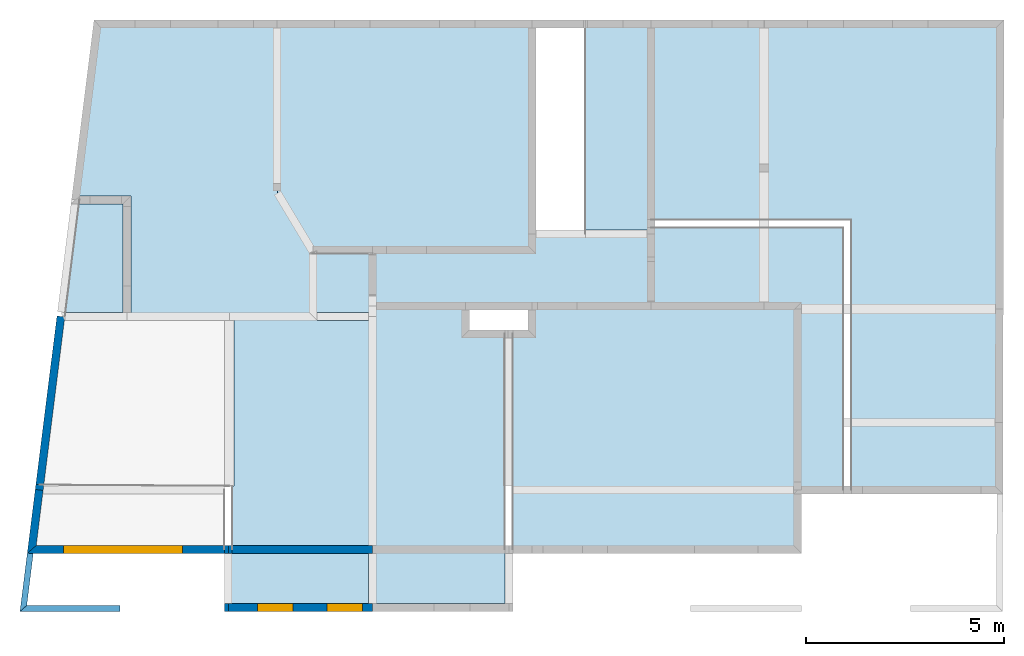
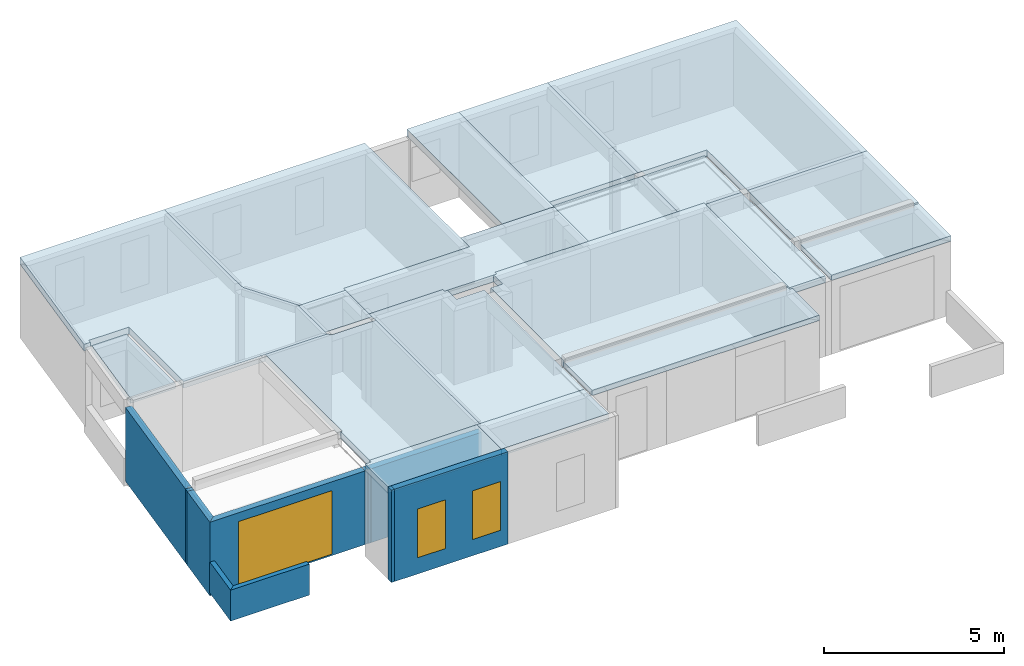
# One storey, part 4 of 8: 19 slabs, 11 walls, 3 windows, 3 openings.
"""IFC2X3 building model written with IfcOpenShell, lengths in metres."""

import ifcopenshell
import ifcopenshell.guid

model = None  # the IFC model being written
_history = None  # IfcOwnerHistory: only IFC2X3 demands one
_inside = {}  # id of a spatial element -> (the spatial element, [elements in it])
_under = {}  # id of a project, library or spatial element -> (it, [spatial elements below it])
_declared = {}  # id of a project -> (the project, [libraries it declares])
_typed = {}  # id of a type object -> (the type object, [elements of that type])
_made_of = {}  # id of a material, layer set ... -> (it, [elements and type objects made of it])


def new_model(schema):
    """Start an empty IFC model of exactly this schema.

    Asked for "IFC4X3", IfcOpenShell would pick the latest addendum, in which some entities
    have other attributes; the version numbers below select the first issue.
    IFC2X3 requires an IfcOwnerHistory on every rooted entity: one is made here for all.
    """
    global model, _history
    if schema == "IFC4X3":
        model = ifcopenshell.file(schema_version=(4, 3, 0, 0))
    else:
        model = ifcopenshell.file(schema=schema)
    _inside.clear()
    _under.clear()
    _declared.clear()
    _typed.clear()
    _made_of.clear()
    _history = None
    if model.schema == "IFC2X3":
        org = make("IfcOrganization", Name="unknown")
        user = make(
            "IfcPersonAndOrganization",
            ThePerson=make("IfcPerson", FamilyName="unknown"),
            TheOrganization=org,
        )
        app = make(
            "IfcApplication",
            ApplicationDeveloper=org,
            Version="unknown",
            ApplicationFullName="unknown",
            ApplicationIdentifier="unknown",
        )
        _history = make(
            "IfcOwnerHistory",
            OwningUser=user,
            OwningApplication=app,
            ChangeAction="ADDED",
            CreationDate=0,
        )
    return model


def make(cls, **values):
    """One entity of the class cls with the attributes given. An attribute that is None is left unset."""
    return model.create_entity(
        cls, **{name: value for name, value in values.items() if value is not None}
    )


def rooted(cls, **values):
    """An entity with a GlobalId (a new one), such as an element, a storey or a relation."""
    return make(cls, GlobalId=ifcopenshell.guid.new(), OwnerHistory=_history, **values)


def si_unit(unit_type, name, prefix=None):
    """IfcSIUnit, for example si_unit("LENGTHUNIT", "METRE", prefix="MILLI")."""
    return make("IfcSIUnit", UnitType=unit_type, Prefix=prefix, Name=name)


def assignment(units):
    """IfcUnitAssignment: the units of a project."""
    return None if units is None else make("IfcUnitAssignment", Units=units)


def point(xyz):
    """IfcCartesianPoint."""
    return None if xyz is None else make("IfcCartesianPoint", Coordinates=xyz)


def direction(xyz):
    """IfcDirection."""
    return None if xyz is None else make("IfcDirection", DirectionRatios=xyz)


def frame(location, z_axis=None, x_axis=None):
    """IfcAxis2Placement3D, a coordinate frame: its origin and axes. An axis left out is left unset."""
    return make(
        "IfcAxis2Placement3D",
        Location=point(location),
        Axis=direction(z_axis),
        RefDirection=direction(x_axis),
    )


def frame_2d(location, x_axis=None):
    """IfcAxis2Placement2D, a coordinate frame in the plane: its origin and x axis."""
    return make(
        "IfcAxis2Placement2D", Location=point(location), RefDirection=direction(x_axis)
    )


def origin_with_axes():
    """The frame at (0, 0, 0) with the z axis (0, 0, 1) and the x axis (1, 0, 0) written out."""
    return frame((0.0, 0.0, 0.0), z_axis=(0.0, 0.0, 1.0), x_axis=(1.0, 0.0, 0.0))


def origin_2d():
    """The frame at (0, 0) in the plane with its x axis left unset."""
    return frame_2d((0.0, 0.0))


def place(relative_to, where):
    """IfcLocalPlacement: puts the frame where relative to a parent placement (None: the world)."""
    return make(
        "IfcLocalPlacement", PlacementRelTo=relative_to, RelativePlacement=where
    )


def context(
    kind, dimensions, precision=None, world=None, true_north=None, identifier=None
):
    """IfcGeometricRepresentationContext, for example the 3D "Model" context."""
    return make(
        "IfcGeometricRepresentationContext",
        ContextIdentifier=identifier,
        ContextType=kind,
        CoordinateSpaceDimension=dimensions,
        Precision=precision,
        WorldCoordinateSystem=world,
        TrueNorth=true_north,
    )


def subcontext(parent, identifier, kind, view, scale=None):
    """IfcGeometricRepresentationSubContext, for example "Body" below "Model"."""
    return make(
        "IfcGeometricRepresentationSubContext",
        ContextIdentifier=identifier,
        ContextType=kind,
        ParentContext=parent,
        TargetScale=scale,
        TargetView=view,
    )


def project(units=None, contexts=None):
    """IfcProject with its units and contexts."""
    return rooted(
        "IfcProject",
        Name="project",
        RepresentationContexts=contexts,
        UnitsInContext=assignment(units),
    )


def spatial(cls, under=None, at=None, **own):
    """A site, building, storey or space (cls), placed at a placement, below another one or the project."""
    s = rooted(cls, ObjectPlacement=at, **own)
    if under is not None:
        _under.setdefault(under.id(), (under, []))[1].append(s)
    return s


def polyline(points):
    """IfcPolyline through the points."""
    return make("IfcPolyline", Points=[point(p) for p in points])


def profile(cls, at=None, kind="AREA", **sizes):
    """A parametric profile (cls). Its sizes go by their IFC names, for example OverallWidth=200.0."""
    return make(cls, ProfileType=kind, Position=at, **sizes)


def rectangle(**sizes):
    """IfcRectangleProfileDef."""
    return profile("IfcRectangleProfileDef", **sizes)


def outline(outer, holes=None, kind="AREA"):
    """IfcArbitraryClosedProfileDef: a profile drawn as a closed curve; with holes, ...WithVoids."""
    if holes is None:
        return make("IfcArbitraryClosedProfileDef", ProfileType=kind, OuterCurve=outer)
    return make(
        "IfcArbitraryProfileDefWithVoids",
        ProfileType=kind,
        OuterCurve=outer,
        InnerCurves=holes,
    )


def extrude(swept, where, along, depth):
    """IfcExtrudedAreaSolid: the profile swept, set in the frame where, extruded along a direction by depth."""
    return make(
        "IfcExtrudedAreaSolid",
        SweptArea=swept,
        Position=where,
        ExtrudedDirection=direction(along),
        Depth=depth,
    )


def shape(context_of_items, identifier, shape_type, items):
    """IfcShapeRepresentation: the items that make up one representation, for example the "Body"."""
    return make(
        "IfcShapeRepresentation",
        ContextOfItems=context_of_items,
        RepresentationIdentifier=identifier,
        RepresentationType=shape_type,
        Items=items,
    )


def material(Name=None, Category=None):
    """IfcMaterial."""
    return make("IfcMaterial", Name=Name, Category=Category)


def layer(
    of_material, thickness, ventilated=None, Name=None, Category=None, Priority=None
):
    """IfcMaterialLayer: one layer of a wall or slab, of a material (None: an air gap)."""
    return make(
        "IfcMaterialLayer",
        Material=of_material,
        LayerThickness=thickness,
        IsVentilated=ventilated,
        Name=Name,
        Category=Category,
        Priority=Priority,
    )


def layer_set(layers, Name=None):
    """IfcMaterialLayerSet."""
    return make("IfcMaterialLayerSet", MaterialLayers=layers, LayerSetName=Name)


def layer_usage(for_layer_set, set_direction, sense, offset, extent=None):
    """IfcMaterialLayerSetUsage: how a layer set lies in its element."""
    return make(
        "IfcMaterialLayerSetUsage",
        ForLayerSet=for_layer_set,
        LayerSetDirection=set_direction,
        DirectionSense=sense,
        OffsetFromReferenceLine=offset,
        ReferenceExtent=extent,
    )


def made_of(thing, what):
    """Note that an element or type object is made of a material, layer set ...; save() writes the relation."""
    if what is not None:
        _made_of.setdefault(what.id(), (what, []))[1].append(thing)
    return thing


def type_object(cls, material=None, **own):
    """A type object (cls), such as IfcWallType, which elements share."""
    return made_of(rooted(cls, **own), material)


def element(
    cls,
    number,
    at=None,
    inside=None,
    cuts=None,
    type_object=None,
    material=None,
    context=None,
    identifier="Body",
    shape_type=None,
    held_by="IfcProductDefinitionShape",
    body=None,
    shapes=None,
    **own,
):
    """One element of the class cls, such as IfcWall. Its Tag is "e" and its number.

    at: its placement. inside: the storey or other place that contains it. cuts: it is an
    opening in that element (IfcRelVoidsElement). A single representation is given by context,
    identifier, shape_type and body (its items); several are given by shapes. held_by: the class
    of the entity that holds the representations. save() writes the other relations.
    """
    e = rooted(cls, Tag="e%d" % number, ObjectPlacement=at, **own)
    if body is not None:
        shapes = [shape(context, identifier, shape_type, body)]
    if shapes is not None:
        e.Representation = make(held_by, Representations=shapes)
    if inside is not None:
        _inside.setdefault(inside.id(), (inside, []))[1].append(e)
    if cuts is not None:
        rooted(
            "IfcRelVoidsElement", RelatingBuildingElement=cuts, RelatedOpeningElement=e
        )
    if type_object is not None:
        _typed.setdefault(type_object.id(), (type_object, []))[1].append(e)
    return made_of(e, material)


def fill(opening, filler):
    """IfcRelFillsElement: the door or window that sits in an opening."""
    return rooted(
        "IfcRelFillsElement",
        RelatingOpeningElement=opening,
        RelatedBuildingElement=filler,
    )


def aggregate(whole, parts):
    """IfcRelAggregates: a whole, such as a stair, and the parts it consists of."""
    return rooted("IfcRelAggregates", RelatingObject=whole, RelatedObjects=parts)


def save(model, path):
    """Write the relations noted so far, then the file.

    IfcRelAggregates (storeys below a building ...), IfcRelContainedInSpatialStructure (elements
    in a storey), IfcRelDefinesByType, IfcRelAssociatesMaterial and IfcRelDeclares: one each for
    every whole, place, type object, material and project.
    """
    for whole, parts in _under.values():
        aggregate(whole, parts)
    for where, things in _inside.values():
        rooted(
            "IfcRelContainedInSpatialStructure",
            RelatedElements=things,
            RelatingStructure=where,
        )
    for kind, things in _typed.values():
        rooted("IfcRelDefinesByType", RelatedObjects=things, RelatingType=kind)
    for what, things in _made_of.values():
        rooted("IfcRelAssociatesMaterial", RelatedObjects=things, RelatingMaterial=what)
    for by, libraries in _declared.values():
        rooted("IfcRelDeclares", RelatingContext=by, RelatedDefinitions=libraries)
    model.write(path)


model = new_model("IFC2X3")

# Units and contexts
model_context = context("Model", 3, precision=0.0001, world=origin_with_axes(), true_north=direction((0.0, 1.0)))
plan_context = context("Plan", 2, precision=0.0001, world=origin_with_axes(), true_north=direction((0.0, 1.0)))
body_context = subcontext(model_context, "Body", "Model", "MODEL_VIEW")
ifc_project = project(units=[si_unit("MASSUNIT", "GRAM", prefix="KILO"), si_unit("AREAUNIT", "SQUARE_METRE"), si_unit("LENGTHUNIT", "METRE"), si_unit("VOLUMEUNIT", "CUBIC_METRE")], contexts=[plan_context, model_context])

# Site, building, storey
site_placement = place(None, origin_with_axes())
site = spatial("IfcSite", under=ifc_project, at=site_placement, Name="$", CompositionType="ELEMENT")
building_placement = place(site_placement, origin_with_axes())
building = spatial("IfcBuilding", under=site, at=building_placement, Name="Classeur ENS Ensemble", CompositionType="ELEMENT")
storey_placement = place(building_placement, frame((-20.30778888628, -1.812671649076, 3.3), z_axis=(0.0, 0.0, 1.0), x_axis=(1.0, 0.0, 0.0)))
storey = spatial("IfcBuildingStorey", under=building, at=storey_placement, Name="002 R+1", CompositionType="ELEMENT", Elevation=3.3)

# Slabs
ifc_material_1 = material(Name="Default material")
slab_1_placement = place(storey_placement, frame((19.60344547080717, -5.5873253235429, 2.5), z_axis=(0.0, 0.0, 1.0), x_axis=(1.0, 0.0, 0.0)))
element("IfcSlab", 1, at=slab_1_placement, inside=storey, material=ifc_material_1, Name="Dalle BA 18 cm", PredefinedType="FLOOR", context=body_context, shape_type="SweptSolid", held_by="IfcProductRepresentation", body=[
    extrude(outline(polyline([(0.6785603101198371, 1.28228893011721), (0.0, 0.0), (2.58220943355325, -0.9784657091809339), (3.099992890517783, 0.0), (3.099992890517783, 0.0), (0.6785603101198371, 1.28228893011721)])), frame((0.0, 0.0, 0.0), z_axis=(0.0, 0.0, -1.0), x_axis=(0.4677269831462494, 0.8838729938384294, 0.0)), (0.0, 0.0, -1.0), 0.1800000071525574),
])
slab_2_placement = place(storey_placement, frame((23.6133957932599, -12.9323253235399, 2.5), z_axis=(0.0, 0.0, 1.0), x_axis=(1.0, 0.0, 0.0)))
element("IfcSlab", 2, at=slab_2_placement, inside=storey, material=ifc_material_1, Name="Dalle BA 23 cm", PredefinedType="FLOOR", context=body_context, shape_type="SweptSolid", held_by="IfcProductRepresentation", body=[
    extrude(outline(polyline([(3.408238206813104, 1.278089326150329), (0.0, 0.0), (0.4441711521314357, -1.184456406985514), (0.6314369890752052, -1.114231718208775), (0.6665493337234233, -1.20786463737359), (3.887521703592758, 0.0), (3.887521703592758, 0.0), (3.408238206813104, 1.278089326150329)])), frame((0.0, 0.0, 0.0), z_axis=(0.0, 0.0, -1.0), x_axis=(0.9363291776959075, 0.3511234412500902, 0.0)), (0.0, 0.0, -1.0), 0.2300000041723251),
])
slab_3_placement = place(storey_placement, frame((27.2533957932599, -11.56732532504, 2.5), z_axis=(0.0, 0.0, 1.0), x_axis=(1.0, 0.0, 0.0)))
element("IfcSlab", 3, at=slab_3_placement, inside=storey, material=ifc_material_1, Name="Dalle BA 23 cm", PredefinedType="FLOOR", context=body_context, shape_type="SweptSolid", held_by="IfcProductRepresentation", body=[
    extrude(outline(polyline([(0.0, 0.0), (0.0, -3.440000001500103), (0.0, -3.440000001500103), (0.0, -3.440000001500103), (1.364999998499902, -3.439999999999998), (1.364999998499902, 0.0), (1.364999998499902, 0.0), (0.0, 0.0)])), frame((0.0, 0.0, 0.0), z_axis=(0.0, 0.0, -1.0), x_axis=(0.0, -1.0, 0.0)), (0.0, 0.0, -1.0), 0.2300000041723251),
])
slab_4_placement = place(storey_placement, frame((30.89339579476, -11.6673253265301, 2.5), z_axis=(0.0, 0.0, 1.0), x_axis=(1.0, 0.0, 0.0)))
element("IfcSlab", 4, at=slab_4_placement, inside=storey, material=ifc_material_1, Name="Dalle BA 18 cm", PredefinedType="FLOOR", context=body_context, shape_type="SweptSolid", held_by="IfcProductRepresentation", body=[
    extrude(outline(polyline([(7.120516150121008, 1.562801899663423), (7.120516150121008, 1.562801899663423), (7.120516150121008, 1.562801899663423), (7.120516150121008, 1.562801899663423), (0.0, 0.0), (0.3430017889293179, -1.562801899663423), (7.463517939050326, 0.0), (7.463517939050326, 0.0), (7.120516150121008, 1.562801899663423)])), frame((0.0, 0.0, 0.0), z_axis=(0.0, 0.0, -1.0), x_axis=(0.9767511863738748, 0.2143761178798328, 0.0)), (0.0, 0.0, -1.0), 0.1800000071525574),
])
slab_5_placement = place(storey_placement, frame((39.43648670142, -10.1673253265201, 2.5), z_axis=(0.0, 0.0, 1.0), x_axis=(1.0, 0.0, 0.0)))
element("IfcSlab", 5, at=slab_5_placement, inside=storey, material=ifc_material_1, Name="Dalle BA 18 cm", PredefinedType="FLOOR", context=body_context, shape_type="SweptSolid", held_by="IfcProductRepresentation", body=[
    extrude(outline(polyline([(3.458679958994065, 1.626893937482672), (0.0, 0.0), (0.7661754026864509, -1.628843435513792), (4.228999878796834, 2.220446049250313e-16), (4.228999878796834, 2.220446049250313e-16), (3.458679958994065, 1.626893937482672)])), frame((0.0, 0.0, 0.0), z_axis=(0.0, 0.0, -1.0), x_axis=(0.9048912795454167, 0.425642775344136, 0.0)), (0.0, 0.0, -1.0), 0.1800000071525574),
])
slab_6_placement = place(storey_placement, frame((38.08339579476, -5.502325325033, 2.5), z_axis=(0.0, 0.0, 1.0), x_axis=(1.0, 0.0, 0.0)))
element("IfcSlab", 6, at=slab_6_placement, inside=storey, material=ifc_material_1, Name="Dalle BA 23 cm", PredefinedType="FLOOR", context=body_context, shape_type="SweptSolid", held_by="IfcProductRepresentation", body=[
    extrude(outline(polyline([(0.0, 0.0), (0.0, -1.153090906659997), (0.0, -1.153090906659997), (4.6650000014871, -1.153090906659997), (4.6650000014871, 0.0), (4.6650000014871, 0.0), (4.6650000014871, 0.0), (0.0, 0.0)])), frame((0.0, 0.0, 0.0), z_axis=(0.0, 0.0, -1.0), x_axis=(0.0, -1.0, 0.0)), (0.0, 0.0, -1.0), 0.2300000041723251),
])
slab_7_placement = place(storey_placement, frame((39.43646325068, -5.502325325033, 2.5), z_axis=(0.0, 0.0, 1.0), x_axis=(1.0, 0.0, 0.0)))
element("IfcSlab", 7, at=slab_7_placement, inside=storey, material=ifc_material_1, Name="Dalle BA 23 cm", PredefinedType="FLOOR", context=body_context, shape_type="SweptSolid", held_by="IfcProductRepresentation", body=[
    extrude(outline(polyline([(3.826808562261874, -2.864956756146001), (2.345074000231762e-05, -2.864956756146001), (2.345074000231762e-05, -2.864956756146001), (2.345074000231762e-05, -2.864956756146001), (2.345074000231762e-05, -0.3245520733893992), (0.0, 0.0), (3.834098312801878, 0.0), (3.834098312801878, 0.0), (3.826808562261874, -2.864956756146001)])), origin_with_axes(), (0.0, 0.0, 1.0), 0.2300000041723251),
])
slab_8_placement = place(storey_placement, frame((37.23321886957, -3.44736866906, 2.5), z_axis=(0.0, 0.0, 1.0), x_axis=(1.0, 0.0, 0.0)))
element("IfcSlab", 8, at=slab_8_placement, inside=storey, material=ifc_material_1, Name="Dalle BA 23 cm", PredefinedType="FLOOR", context=body_context, shape_type="SweptSolid", held_by="IfcProductRepresentation", body=[
    extrude(outline(polyline([(0.0, 0.0), (0.0, -2.003267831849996), (2.054956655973, -2.003267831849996), (2.054956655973, -0.8501769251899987), (1.979956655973, -0.8501769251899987), (1.979956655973, 0.0), (1.979956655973, 0.0), (0.0, 0.0)])), frame((0.0, 0.0, 0.0), z_axis=(0.0, 0.0, -1.0), x_axis=(0.0, -1.0, 0.0)), (0.0, 0.0, -1.0), 0.2300000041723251),
])
slab_9_placement = place(storey_placement, frame((34.38339579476, -3.24736866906, 2.5), z_axis=(0.0, 0.0, 1.0), x_axis=(1.0, 0.0, 0.0)))
element("IfcSlab", 9, at=slab_9_placement, inside=storey, material=ifc_material_1, Name="Dalle BA 23 cm", PredefinedType="FLOOR", context=body_context, shape_type="SweptSolid", held_by="IfcProductRepresentation", body=[
    extrude(outline(polyline([(5.040043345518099, -2.849804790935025), (1.41005005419, -2.849999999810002), (1.210043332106, -2.849823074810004), (0.0, -2.849823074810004), (0.0, -2.849823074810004), (0.0, 0.0), (5.0400433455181, 0.0), (5.0400433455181, 0.0), (5.040043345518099, -2.849804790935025)])), frame((0.0, 0.0, 0.0), z_axis=(0.0, 0.0, 1.0), x_axis=(0.0, 1.0, 0.0)), (0.0, 0.0, 1.0), 0.2300000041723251),
])
slab_10_placement = place(storey_placement, frame((34.38339579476, -4.191137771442, 2.5), z_axis=(0.0, 0.0, 1.0), x_axis=(1.0, 0.0, 0.0)))
element("IfcSlab", 10, at=slab_10_placement, inside=storey, material=ifc_material_1, Name="Dalle BA 23 cm", PredefinedType="FLOOR", context=body_context, shape_type="SweptSolid", held_by="IfcProductRepresentation", body=[
    extrude(outline(polyline([(0.0, 0.0), (0.0, 0.0), (-0.7437691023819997, 0.0), (-0.7437691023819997, -2.849823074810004), (1.236187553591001, -2.849823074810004), (1.236187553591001, 0.0), (1.236187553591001, 0.0), (0.0, 0.0)])), frame((0.0, 0.0, 0.0), z_axis=(0.0, 0.0, -1.0), x_axis=(0.0, -1.0, 0.0)), (0.0, 0.0, -1.0), 0.2300000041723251),
])
slab_11_placement = place(storey_placement, frame((30.89339579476, -10.06732532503, 2.5), z_axis=(0.0, 0.0, 1.0), x_axis=(1.0, 0.0, 0.0)))
element("IfcSlab", 11, at=slab_11_placement, inside=storey, material=ifc_material_1, Name="Dalle BA 23 cm", PredefinedType="FLOOR", context=body_context, shape_type="SweptSolid", held_by="IfcProductRepresentation", body=[
    extrude(outline(polyline([(6.149685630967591, 3.730612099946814), (6.041238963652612, 3.898657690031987), (0.0, 0.0), (2.190622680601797, -3.394520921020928), (2.518311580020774, -3.18304992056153), (2.84365158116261, -3.687186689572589), (2.84365158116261, -3.687186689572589), (2.84365158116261, -3.687186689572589), (8.557201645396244, 4.440892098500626e-16), (8.557201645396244, 4.440892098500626e-16), (8.557201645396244, 4.440892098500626e-16), (6.149685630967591, 3.730612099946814)])), frame((0.0, 0.0, 0.0), z_axis=(0.0, 0.0, -1.0), x_axis=(0.8402279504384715, 0.5422333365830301, 0.0)), (0.0, 0.0, -1.0), 0.2300000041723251),
])
slab_12_placement = place(storey_placement, frame((37.23320058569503, 1.7926746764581, 2.5), z_axis=(0.0, 0.0, 1.0), x_axis=(1.0, 0.0, 0.0)))
element("IfcSlab", 12, at=slab_12_placement, inside=storey, material=ifc_material_1, Name="Dalle BA 23 cm", PredefinedType="FLOOR", context=body_context, shape_type="SweptSolid", held_by="IfcProductRepresentation", body=[
    extrude(outline(polyline([(0.0003256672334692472, -6.055922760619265), (7.295324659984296, -6.036968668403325), (7.295118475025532, -2.202870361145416), (5.040161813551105, -2.202828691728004), (5.040043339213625, 0.0002527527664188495), (3.830000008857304, 0.0001876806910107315), (3.62999329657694, 0.0), (0.0, 0.0), (0.0, 0.0), (0.0, 0.0), (0.0003256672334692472, -6.055922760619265)])), frame((0.0, 0.0, 0.0), z_axis=(0.0, 0.0, -1.0), x_axis=(5.37766488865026e-05, -0.999999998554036, 0.0)), (0.0, 0.0, -1.0), 0.2300000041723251),
])
slab_13_placement = place(storey_placement, frame((27.35339579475, -5.427325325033, 2.5), z_axis=(0.0, 0.0, 1.0), x_axis=(1.0, 0.0, 0.0)))
element("IfcSlab", 13, at=slab_13_placement, inside=storey, material=ifc_material_1, Name="Dalle BA 23 cm", PredefinedType="FLOOR", context=body_context, shape_type="SweptSolid", held_by="IfcProductRepresentation", body=[
    extrude(outline(polyline([(6.781621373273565, 1.85216401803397), (3.887615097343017, 1.061766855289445), (3.861268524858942, 1.158233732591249), (2.240625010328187, 0.7156113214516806), (2.266971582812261, 0.6191444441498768), (0.0, 0.0), (0.0, 0.0), (0.0, 0.0), (0.0, 0.0), (0.3741213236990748, -1.369829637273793), (4.261736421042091, -0.308062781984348), (4.393469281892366, -0.7903971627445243), (4.393469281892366, -0.7903971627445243), (7.287475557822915, 0.0), (7.287475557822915, 0.0), (7.287475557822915, 0.0), (6.781621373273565, 1.85216401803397)])), frame((0.0, 0.0, 0.0), z_axis=(0.0, 0.0, -1.0), x_axis=(0.9646687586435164, 0.2634657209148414, 0.0)), (0.0, 0.0, -1.0), 0.2300000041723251),
])
slab_14_placement = place(storey_placement, frame((32.72596906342, -3.5073253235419, 2.5), z_axis=(0.0, 0.0, 1.0), x_axis=(1.0, 0.0, 0.0)))
element("IfcSlab", 14, at=slab_14_placement, inside=storey, material=ifc_material_1, Name="Dalle BA 23 cm", PredefinedType="FLOOR", context=body_context, shape_type="SweptSolid", held_by="IfcProductRepresentation", body=[
    extrude(outline(polyline([(0.5519127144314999, 1.563985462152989), (0.4946889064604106, 1.581880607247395), (0.0, 0.0), (5.05842403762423, -1.581880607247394), (5.55311294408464, 2.220446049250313e-16), (5.55311294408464, 2.220446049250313e-16), (5.55311294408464, 2.220446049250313e-16), (0.5519127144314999, 1.563985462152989)])), frame((0.0, 0.0, 0.0), z_axis=(0.0, 0.0, -1.0), x_axis=(0.298468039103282, 0.9544196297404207, 0.0)), (0.0, 0.0, -1.0), 0.2300000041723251),
])
slab_15_placement = place(storey_placement, frame((27.35339579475, -11.56732532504, 2.5), z_axis=(0.0, 0.0, 1.0), x_axis=(1.0, 0.0, 0.0)))
element("IfcSlab", 15, at=slab_15_placement, inside=storey, material=ifc_material_1, Name="Dalle BA 23 cm", PredefinedType="FLOOR", context=body_context, shape_type="SweptSolid", held_by="IfcProductRepresentation", body=[
    extrude(outline(polyline([(0.0, 0.0), (0.0, 0.0), (0.0, -6.140000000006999), (2.4500000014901, -6.140000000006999), (2.4500000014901, -5.540000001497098), (3.340000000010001, -5.540000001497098), (3.340000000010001, 0.0), (3.340000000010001, 0.0), (0.0, 0.0)])), frame((0.0, 0.0, 0.0), z_axis=(0.0, 0.0, -1.0), x_axis=(1.0, 0.0, 0.0)), (0.0, 0.0, -1.0), 0.2300000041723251),
])
slab_16_placement = place(storey_placement, frame((19.75733042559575, -2.747325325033, 2.5), z_axis=(0.0, 0.0, 1.0), x_axis=(1.0, 0.0, 0.0)))
element("IfcSlab", 16, at=slab_16_placement, inside=storey, material=ifc_material_1, Name="Dalle BA 23 cm", PredefinedType="FLOOR", context=body_context, shape_type="SweptSolid", held_by="IfcProductRepresentation", body=[
    extrude(outline(polyline([(5.148901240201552, -4.582105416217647), (1.060653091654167, -5.093777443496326), (0.8178915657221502, -5.138515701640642), (-0.54925109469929, -6.210107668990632), (-0.54925109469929, -6.210107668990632), (-2.160478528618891, -6.411624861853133), (-2.160478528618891, -6.411624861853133), (-2.731342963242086, -1.850430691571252), (0.2850117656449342, -1.472006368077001), (0.1242572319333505, -0.1875812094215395), (0.025031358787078, -0.2000000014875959), (0.0, 0.0), (4.575419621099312, 0.0), (4.575419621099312, 0.0), (5.148901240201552, -4.582105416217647)])), frame((0.0, 0.0, 0.0), z_axis=(0.0, 0.0, 1.0), x_axis=(0.1241879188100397, 0.9922587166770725, 0.0)), (0.0, 0.0, 1.0), 0.2300000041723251),
])
slab_17_placement = place(storey_placement, frame((24.94339579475, -2.327468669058, 2.5), z_axis=(0.0, 0.0, 1.0), x_axis=(1.0, 0.0, 0.0)))
element("IfcSlab", 17, at=slab_17_placement, inside=storey, material=ifc_material_1, Name="Dalle BA 23 cm", PredefinedType="FLOOR", context=body_context, shape_type="SweptSolid", held_by="IfcProductRepresentation", body=[
    extrude(outline(polyline([(1.302370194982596, 1.396346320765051), (2.755969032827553, 1.017178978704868), (2.781209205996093, 1.113941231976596), (1.32760215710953, 1.493110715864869), (1.316555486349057, 1.450746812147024), (0.07598412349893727, 0.2348639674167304), (0.0, 0.0), (-1.039931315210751, -3.986743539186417), (5.191557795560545, -5.612210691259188), (5.191557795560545, -5.612210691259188), (6.655487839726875, 2.220446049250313e-16), (6.655487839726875, 2.220446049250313e-16), (6.655487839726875, 2.220446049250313e-16), (1.302370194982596, 1.396346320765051)])), frame((0.0, 0.0, 0.0), z_axis=(0.0, 0.0, -1.0), x_axis=(0.9676225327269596, -0.2524017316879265, 0.0)), (0.0, 0.0, -1.0), 0.2300000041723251),
])
slab_18_placement = place(storey_placement, frame((23.81339579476, -11.56732532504, 2.5), z_axis=(0.0, 0.0, 1.0), x_axis=(1.0, 0.0, 0.0)))
element("IfcSlab", 18, at=slab_18_placement, inside=storey, material=ifc_material_1, Name="Dalle BA 23 cm", PredefinedType="FLOOR", context=body_context, shape_type="SweptSolid", held_by="IfcProductRepresentation", body=[
    extrude(outline(polyline([(1.848889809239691, 3.018808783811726), (0.0, 0.0), (1.364433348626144, -0.8356564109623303), (1.39028896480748, -0.7928594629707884), (5.040406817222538, -3.028398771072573), (6.078511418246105, -1.333414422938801), (6.045458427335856, -1.19591604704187), (6.77790527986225, 0.0), (6.77790527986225, 0.0), (1.848889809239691, 3.018808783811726)])), frame((0.0, 0.0, 0.0), z_axis=(0.0, 0.0, -1.0), x_axis=(0.5222852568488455, 0.8527708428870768, 0.0)), (0.0, 0.0, -1.0), 0.2300000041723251),
])
slab_19_placement = place(storey_placement, frame((25.8510242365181, -5.587325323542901, 2.5), z_axis=(0.0, 0.0, 1.0), x_axis=(1.0, 0.0, 0.0)))
element("IfcSlab", 19, at=slab_19_placement, inside=storey, material=ifc_material_1, Name="Dalle BA 23 cm", PredefinedType="FLOOR", context=body_context, shape_type="SweptSolid", held_by="IfcProductRepresentation", body=[
    extrude(outline(polyline([(0.0001255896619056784, -1.4799999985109), (1.502371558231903, -1.4799999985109), (1.502371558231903, -1.4799999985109), (1.502371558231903, -1.4799999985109), (1.502371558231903, -1.4799999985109), (1.502371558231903, 0.0), (0.0, 0.0), (0.0, 0.0), (0.0001255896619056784, -1.4799999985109)])), frame((0.0, 0.0, 0.0), z_axis=(0.0, 0.0, -1.0), x_axis=(1.0, 0.0, 0.0)), (0.0, 0.0, -1.0), 0.2300000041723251),
])

# Wall, opening, window
ifc_material_2 = material(Name="mur BBM 20 cm")
ifc_layer_1 = layer(ifc_material_2, 0.2000000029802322)
ifc_layer_set_1 = layer_set([ifc_layer_1], Name="mur BBM 20 cm+")
ifc_layer_usage_1 = layer_usage(ifc_layer_set_1, "AXIS2", "POSITIVE", -0.1000000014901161)
wall_type = type_object("IfcWallType", PredefinedType="STANDARD")
wall_1_placement = place(storey_placement, frame((18.75422768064, -11.56732532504, 0.0), z_axis=(0.0, 0.0, 1.0), x_axis=(1.0, 0.0, 0.0)))
wall_1 = element("IfcWall", 20, at=wall_1_placement, inside=storey, type_object=wall_type, material=ifc_layer_usage_1, Name="mur BBM 20 cm", context=body_context, shape_type="SweptSolid", held_by="IfcProductRepresentation", body=[
    extrude(outline(polyline([(0.1132958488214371, 0.1000000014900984), (0.1132958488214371, 0.1000000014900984), (0.1132958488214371, 0.1000000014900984), (4.859168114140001, 0.1000000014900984), (4.859168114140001, 0.1000000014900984), (4.859168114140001, 0.1000000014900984), (4.859168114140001, -0.1000000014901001), (4.859168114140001, -0.1000000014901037), (4.859168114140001, -0.1000000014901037), (-0.1132958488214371, -0.1000000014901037), (-0.1132958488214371, -0.1000000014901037), (-0.1132958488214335, -0.1000000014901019), (0.1132958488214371, 0.1000000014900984)])), origin_with_axes(), (0.0, 0.0, 1.0), 2.5),
])
opening_1_placement = place(wall_1_placement, frame((2.301120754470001, 0.1000000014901, 0.05000000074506), z_axis=(0.0, 0.0, 1.0), x_axis=(1.0, 0.0, 0.0)))
opening_1 = element("IfcOpeningElement", 21, at=opening_1_placement, cuts=wall_1, Name="BL 300 x 215", context=body_context, shape_type="SweptSolid", held_by="IfcProductRepresentation", body=[
    extrude(rectangle(XDim=3.0, YDim=2.150000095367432, at=origin_2d()), frame((0.0, 0.0, 1.075000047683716), z_axis=(0.0, -1.0, 0.0), x_axis=(1.0, 0.0, 0.0)), (0.0, 0.0, 1.0), 0.2000000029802),
])
window_1_placement = place(opening_1_placement, origin_with_axes())
window_1 = element("IfcWindow", 22, at=window_1_placement, inside=storey, Name="BL 300 x 215", OverallHeight=2.150000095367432, OverallWidth=3.0, context=body_context, shape_type="SweptSolid", held_by="IfcProductRepresentation", body=[
    extrude(rectangle(XDim=3.0, YDim=2.150000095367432, at=origin_2d()), frame((0.0, 0.0, 1.075000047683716), z_axis=(0.0, -1.0, 0.0), x_axis=(1.0, 0.0, 0.0)), (0.0, 0.0, 1.0), 0.2000000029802),
])
fill(opening_1, window_1)

# Walls
ifc_material_3 = material(Name="mur BBM 20 cm")
ifc_layer_2 = layer(ifc_material_3, 0.2000000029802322)
ifc_layer_set_2 = layer_set([ifc_layer_2], Name="mur BBM 20 cm+")
ifc_layer_usage_2 = layer_usage(ifc_layer_set_2, "AXIS2", "POSITIVE", -0.1000000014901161)
wall_2_placement = place(storey_placement, frame((18.75422768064, -11.56732532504, 0.0), z_axis=(0.0, 0.0, 1.0), x_axis=(0.124187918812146, 0.9922587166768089, 0.0)))
element("IfcWall", 23, at=wall_2_placement, inside=storey, type_object=wall_type, material=ifc_layer_usage_2, Name="mur BBM 20 cm", context=body_context, shape_type="SweptSolid", held_by="IfcProductRepresentation", body=[
    extrude(outline(polyline([(-0.1132958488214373, 0.1000000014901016), (-0.1132958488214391, 0.1000000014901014), (-0.1132958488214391, 0.1000000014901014), (1.51279660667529, 0.1000000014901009), (1.51279660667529, 0.1000000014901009), (1.512796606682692, 0.1000000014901), (1.512796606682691, -0.1000000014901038), (1.512796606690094, -0.1000000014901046), (1.512796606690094, -0.1000000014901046), (0.1132958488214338, -0.1000000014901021), (0.1132958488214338, -0.1000000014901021), (0.1132958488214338, -0.1000000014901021), (-0.1132958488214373, 0.1000000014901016)])), origin_with_axes(), (0.0, 0.0, 1.0), 2.5),
])
ifc_material_4 = material(Name="mur BBM 20 cm")
ifc_layer_3 = layer(ifc_material_4, 0.2000000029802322)
ifc_layer_set_3 = layer_set([ifc_layer_3], Name="mur BBM 20 cm+")
ifc_layer_usage_3 = layer_usage(ifc_layer_set_3, "AXIS2", "POSITIVE", -0.1000000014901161)
wall_3_placement = place(storey_placement, frame((23.71339579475, -11.56732532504, 0.0), z_axis=(0.0, 0.0, 1.0), x_axis=(1.0, 0.0, 0.0)))
element("IfcWall", 24, at=wall_3_placement, inside=storey, type_object=wall_type, material=ifc_layer_usage_3, Name="mur BBM 20 cm", context=body_context, shape_type="SweptSolid", held_by="IfcProductRepresentation", body=[
    extrude(outline(polyline([(0.0, 0.1000000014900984), (0.0, 0.1000000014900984), (0.0, 0.1000000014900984), (0.1000000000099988, 0.1000000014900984), (0.1000000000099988, 0.1000000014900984), (0.1000000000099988, 0.1000000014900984), (0.1000000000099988, -0.1000000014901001), (0.1000000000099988, -0.1000000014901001), (0.1000000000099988, -0.1000000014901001), (0.0, -0.1000000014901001), (0.0, -0.1000000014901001), (0.0, -0.1000000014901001), (0.0, 0.1000000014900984)])), origin_with_axes(), (0.0, 0.0, 1.0), 2.5),
])
ifc_material_5 = material(Name="mur BBM 15 cm allégés")
ifc_layer_4 = layer(ifc_material_5, 0.1500000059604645)
ifc_layer_set_4 = layer_set([ifc_layer_4], Name="mur BBM 15 cm allégés+")
ifc_layer_usage_4 = layer_usage(ifc_layer_set_4, "AXIS2", "POSITIVE", -0.07500000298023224)
wall_4_placement = place(storey_placement, frame((18.5425490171, -13.05732532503, 0.1000000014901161), z_axis=(0.0, 0.0, 1.0), x_axis=(0.1241879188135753, 0.99225871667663, 0.0)))
element("IfcWall", 25, at=wall_4_placement, inside=storey, type_object=wall_type, material=ifc_layer_usage_4, Name="mur BBM 15 cm allégés", context=body_context, shape_type="SweptSolid", held_by="IfcProductRepresentation", body=[
    extrude(outline(polyline([(-0.08497188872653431, 0.07500000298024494), (-0.08497188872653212, 0.07500000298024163), (-0.08497188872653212, 0.07500000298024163), (1.400844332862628, 0.07500000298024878), (1.400844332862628, 0.07500000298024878), (1.400844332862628, 0.07500000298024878), (1.400844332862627, -0.07500000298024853), (1.400844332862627, -0.07500000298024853), (1.400844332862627, -0.07500000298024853), (0.08497188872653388, -0.07500000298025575), (0.08497188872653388, -0.07500000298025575), (0.08497188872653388, -0.07500000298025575), (-0.08497188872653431, 0.07500000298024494)])), origin_with_axes(), (0.0, 0.0, 1.0), 1.049999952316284),
])
ifc_material_6 = material(Name="mur BBM 15 cm allégés")
ifc_layer_5 = layer(ifc_material_6, 0.1500000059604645)
ifc_layer_set_5 = layer_set([ifc_layer_5], Name="mur BBM 15 cm allégés+")
ifc_layer_usage_5 = layer_usage(ifc_layer_set_5, "AXIS2", "POSITIVE", -0.07500000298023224)
wall_5_placement = place(storey_placement, frame((18.5425490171, -13.05732532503, 0.1000000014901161), z_axis=(0.0, 0.0, 1.0), x_axis=(1.0, 0.0, 0.0)))
element("IfcWall", 26, at=wall_5_placement, inside=storey, type_object=wall_type, material=ifc_layer_usage_5, Name="mur BBM 15 cm allégés", context=body_context, shape_type="SweptSolid", held_by="IfcProductRepresentation", body=[
    extrude(outline(polyline([(0.08497188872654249, 0.07500000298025), (0.08497188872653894, 0.07500000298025), (0.08497188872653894, 0.07500000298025), (2.439594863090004, 0.07500000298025), (2.439594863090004, 0.07500000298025), (2.439594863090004, 0.07500000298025), (2.439594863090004, -0.07500000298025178), (2.439594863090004, -0.07500000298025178), (2.439594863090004, -0.07500000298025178), (-0.08497188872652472, -0.07500000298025), (-0.08497188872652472, -0.07500000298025), (-0.08497188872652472, -0.07500000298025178), (0.08497188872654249, 0.07500000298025)])), origin_with_axes(), (0.0, 0.0, 1.0), 1.049999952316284),
])
ifc_material_7 = material(Name="mur BBM 20 cm")
ifc_layer_6 = layer(ifc_material_7, 0.2000000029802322)
ifc_layer_set_6 = layer_set([ifc_layer_6], Name="mur BBM 20 cm+")
ifc_layer_usage_6 = layer_usage(ifc_layer_set_6, "AXIS2", "POSITIVE", -0.1000000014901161)
wall_6_placement = place(storey_placement, frame((18.94209874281, -10.0662397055, 0.0), z_axis=(0.0, 0.0, 1.0), x_axis=(0.1241879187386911, 0.9922587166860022, 0.0)))
element("IfcWall", 27, at=wall_6_placement, inside=storey, type_object=wall_type, material=ifc_layer_usage_6, Name="mur BBM 20 cm", context=body_context, shape_type="SweptSolid", held_by="IfcProductRepresentation", body=[
    extrude(outline(polyline([(-1.578598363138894e-15, 0.1000000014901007), (7.402389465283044e-12, 0.1000000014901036), (7.402389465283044e-12, 0.1000000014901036), (0.1293676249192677, 0.1000000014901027), (0.1293676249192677, 0.1000000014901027), (0.1293676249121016, 0.1000000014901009), (0.129367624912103, -0.1000000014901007), (0.1293676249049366, -0.1000000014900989), (0.1293676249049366, -0.1000000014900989), (-7.403711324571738e-12, -0.1000000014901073), (-7.403711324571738e-12, -0.1000000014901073), (2.567390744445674e-16, -0.1000000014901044), (-1.578598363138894e-15, 0.1000000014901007)])), origin_with_axes(), (0.0, 0.0, 1.0), 2.5),
])
ifc_material_8 = material(Name="mur BBM 20 cm")
ifc_layer_7 = layer(ifc_material_8, 0.2000000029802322)
ifc_layer_set_7 = layer_set([ifc_layer_7], Name="mur BBM 20 cm+")
ifc_layer_usage_7 = layer_usage(ifc_layer_set_7, "AXIS2", "POSITIVE", -0.1000000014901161)
wall_7_placement = place(storey_placement, frame((23.61339579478, -11.56732532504, 0.0), z_axis=(0.0, 0.0, 1.0), x_axis=(1.0, 0.0, 0.0)))
element("IfcWall", 28, at=wall_7_placement, inside=storey, type_object=wall_type, material=ifc_layer_usage_7, Name="mur BBM 20 cm", context=body_context, shape_type="SweptSolid", held_by="IfcProductRepresentation", body=[
    extrude(outline(polyline([(0.0, 0.1000000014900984), (0.0, 0.1000000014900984), (0.0, 0.1000000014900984), (0.09999999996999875, 0.1000000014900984), (0.09999999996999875, 0.1000000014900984), (0.09999999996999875, 0.1000000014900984), (0.09999999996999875, -0.1000000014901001), (0.09999999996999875, -0.1000000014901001), (0.09999999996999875, -0.1000000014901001), (0.0, -0.1000000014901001), (0.0, -0.1000000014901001), (0.0, -0.1000000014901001), (0.0, 0.1000000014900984)])), origin_with_axes(), (0.0, 0.0, 1.0), 2.5),
])
ifc_material_9 = material(Name="mur BBM 20 cm")
ifc_layer_8 = layer(ifc_material_9, 0.2000000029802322)
ifc_layer_set_8 = layer_set([ifc_layer_8], Name="mur BBM 20 cm+")
ifc_layer_usage_8 = layer_usage(ifc_layer_set_8, "AXIS2", "POSITIVE", -0.1000000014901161)
wall_8_placement = place(storey_placement, frame((23.81339579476, -11.56732532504, 0.0), z_axis=(0.0, 0.0, 1.0), x_axis=(0.9999999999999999, 0.0, 0.0)))
element("IfcWall", 29, at=wall_8_placement, inside=storey, type_object=wall_type, material=ifc_layer_usage_8, Name="mur BBM 20 cm", context=body_context, shape_type="SweptSolid", held_by="IfcProductRepresentation", body=[
    extrude(outline(polyline([(0.0, 0.1000000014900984), (0.0, 0.1000000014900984), (0.0, 0.1000000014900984), (3.539999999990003, 0.1000000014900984), (3.539999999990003, 0.1000000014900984), (3.539999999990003, 0.1000000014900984), (3.539999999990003, -0.1000000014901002), (3.539999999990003, -0.1000000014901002), (3.539999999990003, -0.1000000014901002), (0.0, -0.1000000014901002), (0.0, -0.1000000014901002), (0.0, -0.1000000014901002), (0.0, 0.1000000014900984)])), origin_with_axes(), (0.0, 0.0, 1.0), 2.5),
])
ifc_material_10 = material(Name="mur BBM 20 cm")
ifc_layer_9 = layer(ifc_material_10, 0.2000000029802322)
ifc_layer_set_9 = layer_set([ifc_layer_9], Name="mur BBM 20 cm+")
ifc_layer_usage_9 = layer_usage(ifc_layer_set_9, "AXIS2", "POSITIVE", -0.1000000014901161)
wall_9_placement = place(storey_placement, frame((18.9581646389, -9.937873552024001, 0.0), z_axis=(0.0, 0.0, 1.0), x_axis=(0.1241879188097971, 0.9922587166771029, 0.0)))
element("IfcWall", 30, at=wall_9_placement, inside=storey, type_object=wall_type, material=ifc_layer_usage_9, Name="mur BBM 20 cm", context=body_context, shape_type="SweptSolid", held_by="IfcProductRepresentation", body=[
    extrude(outline(polyline([(5.672545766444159e-16, 0.1000000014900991), (-7.165885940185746e-12, 0.1000000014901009), (-7.165885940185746e-12, 0.1000000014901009), (4.283709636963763, 0.1000000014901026), (4.283709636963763, 0.1000000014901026), (4.283709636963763, 0.1000000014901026), (4.283709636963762, -0.1000000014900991), (4.283709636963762, -0.1000000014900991), (4.283709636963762, -0.1000000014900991), (7.16720779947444e-12, -0.1000000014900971), (7.16720779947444e-12, -0.1000000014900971), (1.19522447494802e-15, -0.1000000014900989), (5.672545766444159e-16, 0.1000000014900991)])), origin_with_axes(), (0.0, 0.0, 1.0), 2.5),
])
ifc_material_11 = material(Name="PV BA 20 cm")
ifc_layer_10 = layer(ifc_material_11, 0.2000000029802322)
ifc_layer_set_10 = layer_set([ifc_layer_10], Name="PV BA 20 cm+")
ifc_layer_usage_10 = layer_usage(ifc_layer_set_10, "AXIS2", "POSITIVE", -0.1000000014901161)
wall_10_placement = place(storey_placement, frame((23.61339579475, -13.03232532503, -0.4000000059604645), z_axis=(0.0, 0.0, 1.0), x_axis=(1.0, 0.0, 0.0)))
element("IfcWall", 31, at=wall_10_placement, inside=storey, type_object=wall_type, material=ifc_layer_usage_10, Name="PV BA 20 cm", context=body_context, shape_type="SweptSolid", held_by="IfcProductRepresentation", body=[
    extrude(outline(polyline([(0.0, 0.1000000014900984), (0.0, 0.1000000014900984), (0.0, 0.1000000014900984), (0.1000000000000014, 0.1000000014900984), (0.1000000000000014, 0.1000000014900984), (0.1000000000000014, 0.1000000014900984), (0.1000000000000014, -0.1000000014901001), (0.1000000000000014, -0.1000000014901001), (0.1000000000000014, -0.1000000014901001), (0.0, -0.1000000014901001), (0.0, -0.1000000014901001), (0.0, -0.1000000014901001), (0.0, 0.1000000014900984)])), origin_with_axes(), (0.0, 0.0, 1.0), 3.130000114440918),
])

# Wall, openings, windows
ifc_material_12 = material(Name="PV BA 20 cm")
ifc_layer_11 = layer(ifc_material_12, 0.2000000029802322)
ifc_layer_set_11 = layer_set([ifc_layer_11], Name="PV BA 20 cm+")
ifc_layer_usage_11 = layer_usage(ifc_layer_set_11, "AXIS2", "POSITIVE", -0.1000000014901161)
wall_11_placement = place(storey_placement, frame((23.71339579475, -13.03232532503, -0.4000000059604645), z_axis=(0.0, 0.0, 1.0), x_axis=(1.0, 0.0, 0.0)))
wall_11 = element("IfcWall", 32, at=wall_11_placement, inside=storey, type_object=wall_type, material=ifc_layer_usage_11, Name="PV BA 20 cm", context=body_context, shape_type="SweptSolid", held_by="IfcProductRepresentation", body=[
    extrude(outline(polyline([(0.0, 0.1000000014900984), (0.0, 0.1000000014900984), (0.0, 0.1000000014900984), (3.640000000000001, 0.1000000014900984), (3.640000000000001, 0.1000000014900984), (3.640000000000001, 0.1000000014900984), (3.640000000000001, -0.1000000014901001), (3.640000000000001, -0.1000000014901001), (3.640000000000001, -0.1000000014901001), (0.0, -0.1000000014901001), (0.0, -0.1000000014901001), (0.0, -0.1000000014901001), (0.0, 0.1000000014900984)])), origin_with_axes(), (0.0, 0.0, 1.0), 3.130000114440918),
])
opening_2_placement = place(wall_11_placement, frame((1.18903207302, 0.1000000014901, 0.5500000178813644), z_axis=(0.0, 0.0, 1.0), x_axis=(1.0, 0.0, 0.0)))
opening_2 = element("IfcOpeningElement", 33, at=opening_2_placement, cuts=wall_11, Name="BL 90 x 165", context=body_context, shape_type="SweptSolid", held_by="IfcProductRepresentation", body=[
    extrude(rectangle(XDim=0.8999999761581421, YDim=1.649999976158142, at=origin_2d()), frame((0.0, 0.0, 0.824999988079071), z_axis=(0.0, -1.0, 0.0), x_axis=(1.0, 0.0, 0.0)), (0.0, 0.0, 1.0), 0.2000000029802),
])
opening_3_placement = place(wall_11_placement, frame((2.94324686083, 0.1000000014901, 0.5500000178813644), z_axis=(0.0, 0.0, 1.0), x_axis=(1.0, 0.0, 0.0)))
opening_3 = element("IfcOpeningElement", 34, at=opening_3_placement, cuts=wall_11, Name="BL 90 x 165", context=body_context, shape_type="SweptSolid", held_by="IfcProductRepresentation", body=[
    extrude(rectangle(XDim=0.8999999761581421, YDim=1.649999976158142, at=origin_2d()), frame((0.0, 0.0, 0.824999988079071), z_axis=(0.0, -1.0, 0.0), x_axis=(1.0, 0.0, 0.0)), (0.0, 0.0, 1.0), 0.2000000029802),
])
window_2_placement = place(opening_2_placement, origin_with_axes())
window_2 = element("IfcWindow", 35, at=window_2_placement, inside=storey, Name="BL 90 x 165", OverallHeight=1.649999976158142, OverallWidth=0.8999999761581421, context=body_context, shape_type="SweptSolid", held_by="IfcProductRepresentation", body=[
    extrude(rectangle(XDim=0.8999999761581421, YDim=1.649999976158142, at=origin_2d()), frame((0.0, 0.0, 0.824999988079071), z_axis=(0.0, -1.0, 0.0), x_axis=(1.0, 0.0, 0.0)), (0.0, 0.0, 1.0), 0.2000000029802),
])
fill(opening_2, window_2)
window_3_placement = place(opening_3_placement, origin_with_axes())
window_3 = element("IfcWindow", 36, at=window_3_placement, inside=storey, Name="BL 90 x 165", OverallHeight=1.649999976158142, OverallWidth=0.8999999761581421, context=body_context, shape_type="SweptSolid", held_by="IfcProductRepresentation", body=[
    extrude(rectangle(XDim=0.8999999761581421, YDim=1.649999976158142, at=origin_2d()), frame((0.0, 0.0, 0.824999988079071), z_axis=(0.0, -1.0, 0.0), x_axis=(1.0, 0.0, 0.0)), (0.0, 0.0, 1.0), 0.2000000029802),
])
fill(opening_3, window_3)

save(model, "model.ifc")
